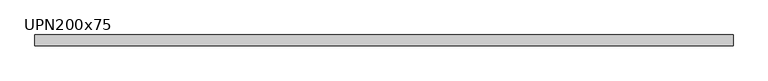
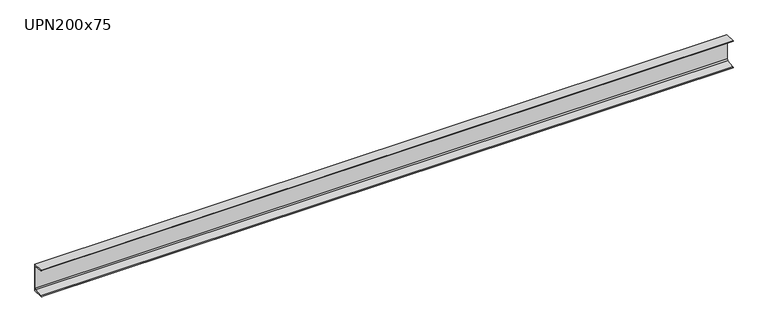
"""IFC4 building model written with IfcOpenShell, lengths in millimetres: beam geometry, M_MC Shapes : UPN200x75."""

from ifc_helpers import new_model, si_unit, point, frame, frame_2d, origin, place, context, project, spatial, polyline, circle_curve, trimmed, segment, composite_curve, outline, extrude, source, transform, mapped, element, save


def upn200x75_99ddc015(model_context):
    return source(origin(), model_context, "Body", "SweptSolid", [
        extrude(outline(composite_curve([segment(polyline([(10.9, 100.0), (10.9, -100.0), (-64.1, -100.0), (-64.1, -99.0253247)]), True, "CONTINUOUS"), segment(trimmed(circle_curve(frame_2d((-60.15, -99.0253247)), 3.95), [point((-64.1, -99.0253247))], [point((-60.7993773, -95.1290689))], False, "CARTESIAN"), True, "CONTINUOUS"), segment(polyline([(-60.7993773, -95.1290689), (-0.2512455, -85.0376935)]), True, "CONTINUOUS"), segment(trimmed(circle_curve(frame_2d((-1.55, -77.2451819)), 7.9), [point((-0.2512455, -85.0376935))], [point((6.35, -77.2451819))], True, "CARTESIAN"), True, "CONTINUOUS"), segment(polyline([(6.35, -77.2451819), (6.35, 77.2451819)]), True, "CONTINUOUS"), segment(trimmed(circle_curve(frame_2d((-1.55, 77.2451819)), 7.9), [point((6.35, 77.2451819))], [point((-0.2512455, 85.0376935))], True, "CARTESIAN"), True, "CONTINUOUS"), segment(polyline([(-0.2512455, 85.0376935), (-60.7993773, 95.1290689)]), True, "CONTINUOUS"), segment(trimmed(circle_curve(frame_2d((-60.15, 99.0253247)), 3.95), [point((-60.7993773, 95.1290689))], [point((-64.1, 99.0253247))], False, "CARTESIAN"), True, "CONTINUOUS"), segment(polyline([(-64.1, 99.0253247), (-64.1, 100.0), (10.9, 100.0)]), True, "CONTINUOUS")], self_intersect=False)), frame((-2451.65, 0.0, 0.0), z_axis=(1.0, 0.0, 0.0), x_axis=(0.0, 1.0, 0.0)), (0.0, 0.0, 1.0), 4896.1),
    ])


if __name__ == "__main__":
    model = new_model("IFC4")
    model_context = context("Model", 3, world=origin())
    ifc_project = project(units=[si_unit("LENGTHUNIT", "METRE", prefix="MILLI")], contexts=[model_context])
    site = spatial("IfcSite", under=ifc_project)
    building = spatial("IfcBuilding", under=site)
    placement = place(None, origin())
    upn200x75_shape = upn200x75_99ddc015(model_context)
    element("IfcBeam", 1, ObjectType="M_MC Shapes : UPN200x75", at=placement, inside=building, context=model_context, shape_type="MappedRepresentation", body=[
        mapped(upn200x75_shape, transform((0.0, 0.0, 0.0), x_axis=(1.0, 0.0, 0.0), y_axis=(0.0, 1.0, 0.0), z_axis=(0.0, 0.0, 1.0))),
    ])
    save(model, "model.ifc")
